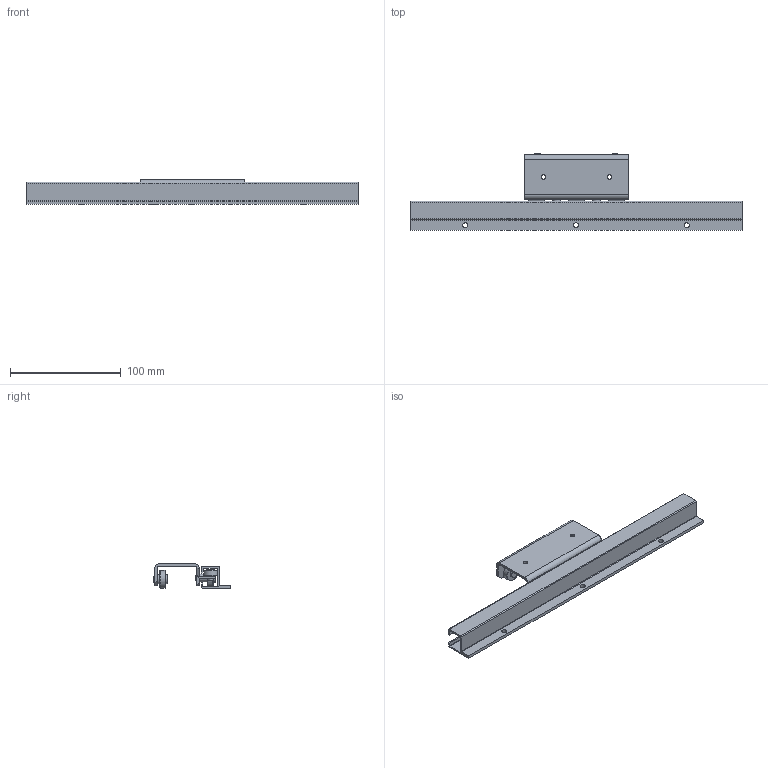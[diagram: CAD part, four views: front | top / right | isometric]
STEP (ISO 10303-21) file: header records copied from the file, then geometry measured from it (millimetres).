
FILE_DESCRIPTION((''),'2;1');
FILE_NAME('D:\製品 (図面)\カタログ用3D\ESH\ESH5.stp','2011-06-08T14:37:31',('Tsuchiya'),(''),'Autodesk Inventor 10','Autodesk Inventor 10','');
FILE_SCHEMA(('AUTOMOTIVE_DESIGN { 1 0 10303 214 1 1 1 1 }'));
Length unit declared in the file: millimetre
Products named in the file (3): ESH5; ESH5(レール); ESH5(キャリッジ)
Assembly tree (2 placements, depth 2):
  ESH5
    ESH5(レール)
    ESH5(キャリッジ)
Bounding box: 300 x 69 x 22 mm (x, y, z)
Volume: 53066.1 mm3; surface area: 58840.8 mm2
Topology: 2 solids, 2 shells, 185 faces, 422 edges, 270 vertices
Faces by surface type: plane 83, cylinder 43, bspline 38, cone 13, torus 8
Full cylindrical faces by diameter (mm): 3 x1, 4 x1, 4.5 x3, 5 x3, 7 x4, 8 x3, 13 x2, 16 x2
Entity records: 5532 total; most frequent: CARTESIAN_POINT 1624, DIRECTION 782, ORIENTED_EDGE 706, EDGE_CURVE 353, AXIS2_PLACEMENT_3D 297, EDGE_LOOP 284, VERTEX_POINT 261, VECTOR 188
